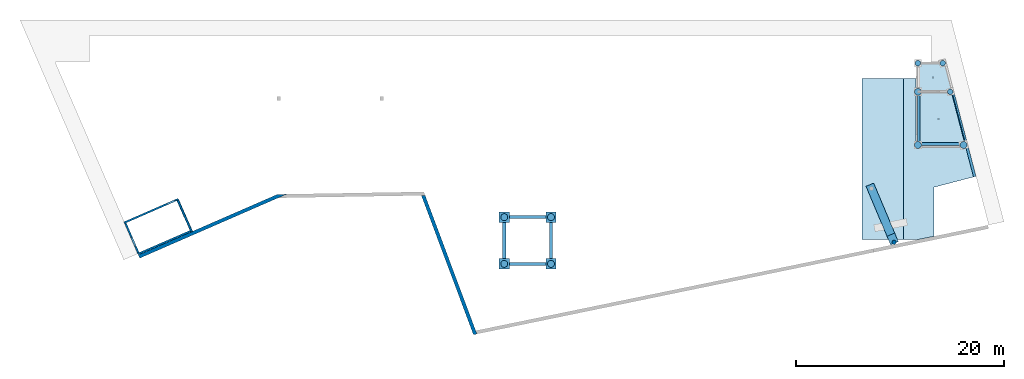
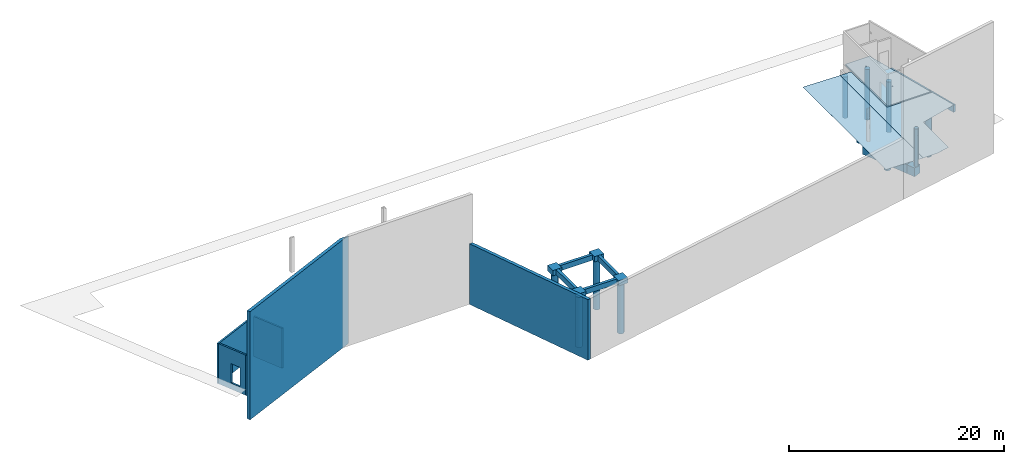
# One storey, part 1 of 5: 17 slabs, 10 beams, 6 walls, 1 column, 5 openings.
"""IFC2X3 building model written with IfcOpenShell, lengths in centimetres."""

from ifc_helpers import new_model, entity, si_unit, converted_unit, derived_unit, direction, frame, frame_2d, origin, origin_2d_with_axis, place, context, subcontext, project, spatial, polyline, rectangle, circle, outline, extrude, boolean, clip, halfspace, bounded_halfspace, faceted_brep, source, transform, mapped, material, material_list, layer, layer_set, layer_usage, type_object, type_shapes, element, save


model = new_model("IFC2X3")

# Units and contexts
model_context = context("Model", 3, precision=0.001, world=origin(), true_north=direction((6.12303176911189e-17, 1.0)))
body_context = subcontext(model_context, "Body", "Model", "MODEL_VIEW")
ifc_project = project(units=[si_unit("LENGTHUNIT", "METRE", prefix="CENTI"), si_unit("AREAUNIT", "SQUARE_METRE"), si_unit("VOLUMEUNIT", "CUBIC_METRE"), converted_unit("PLANEANGLEUNIT", "DEGREE", entity("IfcRatioMeasure", 0.0174532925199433), si_unit("PLANEANGLEUNIT", "RADIAN"), dimensions=[0, 0, 0, 0, 0, 0, 0]), si_unit("MASSUNIT", "GRAM", prefix="KILO"), derived_unit("MASSDENSITYUNIT", [(si_unit("MASSUNIT", "GRAM", prefix="KILO"), 1), (si_unit("LENGTHUNIT", "METRE"), -3)]), si_unit("TIMEUNIT", "SECOND"), si_unit("FREQUENCYUNIT", "HERTZ"), si_unit("THERMODYNAMICTEMPERATUREUNIT", "DEGREE_CELSIUS"), derived_unit("THERMALTRANSMITTANCEUNIT", [(si_unit("MASSUNIT", "GRAM", prefix="KILO"), 1), (si_unit("THERMODYNAMICTEMPERATUREUNIT", "KELVIN"), -1), (si_unit("TIMEUNIT", "SECOND"), -3)]), derived_unit("VOLUMETRICFLOWRATEUNIT", [(si_unit("LENGTHUNIT", "METRE"), 3), (si_unit("TIMEUNIT", "SECOND"), -1)]), si_unit("ELECTRICCURRENTUNIT", "AMPERE"), si_unit("ELECTRICVOLTAGEUNIT", "VOLT"), si_unit("POWERUNIT", "WATT"), si_unit("FORCEUNIT", "NEWTON"), si_unit("ILLUMINANCEUNIT", "LUX"), si_unit("LUMINOUSFLUXUNIT", "LUMEN"), si_unit("LUMINOUSINTENSITYUNIT", "CANDELA"), derived_unit("USERDEFINED", [(si_unit("MASSUNIT", "GRAM", prefix="KILO"), -1), (si_unit("LENGTHUNIT", "METRE"), -2), (si_unit("TIMEUNIT", "SECOND"), 3), (si_unit("LUMINOUSFLUXUNIT", "LUMEN"), 1)]), derived_unit("LINEARVELOCITYUNIT", [(si_unit("LENGTHUNIT", "METRE"), 1), (si_unit("TIMEUNIT", "SECOND"), -1)]), si_unit("PRESSUREUNIT", "PASCAL"), derived_unit("USERDEFINED", [(si_unit("LENGTHUNIT", "METRE"), -2), (si_unit("MASSUNIT", "GRAM", prefix="KILO"), 1), (si_unit("TIMEUNIT", "SECOND"), -2)])], contexts=[model_context])

# Site, building, storey
site_placement = place(None, origin())
site = spatial("IfcSite", under=ifc_project, at=site_placement, Name="Default", CompositionType="ELEMENT")
building_placement = place(site_placement, origin())
building = spatial("IfcBuilding", under=site, at=building_placement, Name="CAGE 03", CompositionType="ELEMENT")
storey_placement = place(building_placement, frame((0.0, 0.0, -50.0)))
storey = spatial("IfcBuildingStorey", under=building, at=storey_placement, Name="+3.50", CompositionType="ELEMENT", Elevation=-50.0000000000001)

# Column
ifc_material_1 = material(Name="Béton, C25/30")
column_type = type_object("IfcColumnType", Name="Ø40", PredefinedType="COLUMN", material=ifc_material_1)
shared_shape = source(origin(), body_context, "Body", "SweptSolid", [
    extrude(circle(Radius=19.9999999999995, at=frame_2d((1.09447412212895e-13, 4.19091230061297e-13), x_axis=(1.0, 0.0))), frame((10818.8242330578, 3304.50599773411, 260.0), z_axis=(0.0, 0.0, 1.0), x_axis=(-0.967549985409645, -0.252679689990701, 0.0)), (0.0, 0.0, 1.0), 80.0),
    extrude(circle(Radius=19.9999999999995, at=frame_2d((2.18894824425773e-13, 8.38182460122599e-13), x_axis=(1.0, 0.0))), frame((10818.8242330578, 3304.50599773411, -92.0), z_axis=(0.0, 0.0, 1.0), x_axis=(0.96754998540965, 0.252679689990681, 0.0)), (0.0, 0.0, 1.0), 352.0),
])
type_shapes(column_type, [shared_shape])
column_placement = place(storey_placement, frame((0.0, 0.0, 50.0)))
element("IfcColumn", 1, at=column_placement, inside=storey, type_object=column_type, material=ifc_material_1, Name="BBGO-Poteau circ:Ø40", ObjectType="Ø40", context=body_context, shape_type="MappedRepresentation", body=[
    mapped(shared_shape, transform((0.0, 0.0, 0.0), scale=1.0)),
])

# Beams
ifc_material_2 = material(Name="<Unnamed>")
ifc_material_list = material_list([ifc_material_1, ifc_material_2])
beam_type_1 = type_object("IfcBeamType", Name="40x80ht", PredefinedType="BEAM", material=ifc_material_list)
beam_1_placement = place(storey_placement, frame((11028.3658201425, 4215.66066607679, 0.0), z_axis=(0.0, 0.0, 1.0), x_axis=(0.0, 1.0, 0.0)))
element("IfcBeam", 2, at=beam_1_placement, inside=storey, type_object=beam_type_1, material=ifc_material_1, Name="BBGO-Poutre rect:40x80ht", ObjectType="BBGO-Poutre rect:40x80ht", context=body_context, shape_type="CSG", body=[
    boolean("DIFFERENCE", boolean("DIFFERENCE", extrude(outline(polyline([(-20.6666666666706, -46.6666666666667), (19.3333333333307, -46.6666666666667), (19.3333333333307, 33.3333333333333), (1.3333333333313, 33.3333333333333), (1.33333333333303, 13.3333333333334), (-20.6666666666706, 13.3333333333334), (-20.6666666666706, -46.6666666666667)])), frame((0.0, -19.3333333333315, -38.3333333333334), z_axis=(1.0, 0.0, 0.0), x_axis=(0.0, 1.0, 0.0)), (0.0, 0.0, 1.0), 536.999999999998), extrude(circle(Radius=7.0, at=frame_2d((0.0, 1.35358391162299e-14), x_axis=(1.0, 0.0))), frame((273.605961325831, -40.0, -54.2980787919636), z_axis=(0.0, 1.0, 0.0), x_axis=(-1.0, 0.0, 0.0)), (0.0, 0.0, 1.0), 40.0000000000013)), halfspace(frame((50.0, -40.0, 0.0), z_axis=(-0.62469504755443, -0.780868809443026, 0.0), x_axis=(0.780868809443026, -0.62469504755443, 0.0)), False)),
])
beam_type_2 = type_object("IfcBeamType", Name="BBGO-Poutre rect:50x80ht", PredefinedType="BEAM")
beam_2_placement = place(storey_placement, frame((11028.3658201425, 4215.66066607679, -85.0)))
element("IfcBeam", 3, at=beam_2_placement, inside=storey, type_object=beam_type_2, material=ifc_material_1, Name="BBGO-Poutre rect:50x80ht", ObjectType="BBGO-Poutre rect:50x80ht", context=body_context, shape_type="Brep", body=[
    faceted_brep([(488.375555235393, 0.0, 80.0), (488.375555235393, 0.0, 0.0), (488.375555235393, 25.7546174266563, 0.0), (488.375555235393, 50.0, 0.0), (488.375555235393, 50.0, 80.0), (488.375555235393, 25.7546174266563, 80.0), (481.14078689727, 0.0, 80.0), (18.0, 0.0, 80.0), (0.0, 0.0, 80.0), (0.0, 0.0, 0.0), (481.14078689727, 0.0, 0.0), (40.0, 50.0, 0.0), (468.083079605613, 50.0, 0.0), (40.0, 50.0, 60.0), (468.083079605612, 50.0, 60.0), (475.31784794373, 50.0, 60.0), (475.31784794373, 50.0, 80.0), (483.674780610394, 18.0, 80.0), (18.0, 18.0, 80.0), (18.0, 22.4999999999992, 80.0), (18.0, 18.0, 60.0), (483.674780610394, 18.0, 60.0), (18.0, 22.4999999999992, 60.0)], [[[0, 1, 2, 3, 4, 5]], [[1, 0, 6, 7, 8, 9, 10]], [[3, 2, 1, 10, 9, 11, 12]], [[4, 3, 12, 11, 13, 14, 15, 16]], [[0, 5, 4, 16, 17, 18, 19, 8, 7, 6]], [[20, 21, 15, 14, 13, 22]], [[21, 17, 16, 15]], [[21, 20, 18, 17]], [[11, 9, 8, 19, 22, 13]], [[18, 20, 22, 19]]]),
])
beam_type_3 = type_object("IfcBeamType", Name="BBGO-Poutre rect:80x100ht", PredefinedType="BEAM")
beam_3_placement = place(storey_placement, frame((10823.2390938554, 3294.00667585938, 0.0), z_axis=(0.0, 0.0, 1.0), x_axis=(-0.387616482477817, 0.921820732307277, 0.0)))
element("IfcBeam", 4, at=beam_3_placement, inside=storey, type_object=beam_type_3, material=ifc_material_1, Name="BBGO-Poutre rect:80x100ht", ObjectType="BBGO-Poutre rect:80x100ht", context=body_context, shape_type="SweptSolid", body=[
    extrude(rectangle(XDim=100.0, YDim=80.0, at=frame_2d((-1.4210854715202e-14, 8.84625706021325e-13), x_axis=(1.0, 0.0))), frame((0.0, 0.0, -92.0), z_axis=(1.0, 0.0, 0.0), x_axis=(0.0, 0.0, -1.0)), (0.0, 0.0, 1.0), 91.0042546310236),
])
beam_4_placement = place(storey_placement, frame((10787.9643447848, 3377.89628450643, 0.0), z_axis=(0.0, 0.0, 1.0), x_axis=(-0.387616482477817, 0.921820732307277, 0.0)))
element("IfcBeam", 5, at=beam_4_placement, inside=storey, type_object=beam_type_3, material=ifc_material_1, Name="BBGO-Poutre rect:80x100ht", ObjectType="BBGO-Poutre rect:80x100ht", context=body_context, shape_type="SweptSolid", body=[
    extrude(rectangle(XDim=100.0, YDim=80.0, at=frame_2d((-1.4210854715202e-14, -8.84625706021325e-13), x_axis=(1.0, 0.0))), frame((0.0, 0.0, -92.0), z_axis=(1.0, 0.0, 0.0), x_axis=(0.0, 0.0, -1.0)), (0.0, 0.0, 1.0), 521.399870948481),
])
beam_type_4 = type_object("IfcBeamType", Name="BBGO-Poutre rect:25x80ht", PredefinedType="BEAM")
beam_5_placement = place(storey_placement, frame((11527.8607803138, 4244.31916220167, 0.0), z_axis=(0.0, 0.0, 1.0), x_axis=(0.25267968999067, -0.967549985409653, 0.0)))
element("IfcBeam", 6, at=beam_5_placement, inside=storey, type_object=beam_type_4, material=ifc_material_1, Name="BBGO-Poutre rect:25x80ht", ObjectType="BBGO-Poutre rect:25x80ht", context=body_context, shape_type="Clipping", body=[
    clip(clip(extrude(rectangle(XDim=80.0, YDim=24.9999999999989, at=frame_2d((3.5527136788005e-15, 8.38440428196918e-13), x_axis=(1.0, 0.0))), frame((0.0, -12.4999999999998, -45.0), z_axis=(1.0, 0.0, 0.0), x_axis=(0.0, 0.0, -1.0)), (0.0, 0.0, 1.0), 314.81419035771), bounded_halfspace(frame((24.9188797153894, -18.0, -45.0), z_axis=(-0.967549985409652, 0.252679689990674, 0.0), x_axis=(0.0, 0.0, -1.0)), False, frame((0.0, -12.4999999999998, -45.0), z_axis=(1.0, 0.0, 0.0), x_axis=(0.0, 0.0, -1.0)), polyline([(-40.0, -5.50000000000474), (40.0, -5.50000000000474), (40.0, -12.4999999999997), (-40.0, -12.499999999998), (-40.0, -5.50000000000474)]))), bounded_halfspace(frame((24.9188797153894, -18.0, -5.0), z_axis=(-0.252679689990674, -0.967549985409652, 0.0), x_axis=(0.0, 0.0, -1.0)), False, frame((0.0, -12.4999999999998, -45.0), z_axis=(1.0, 0.0, 0.0), x_axis=(0.0, 0.0, -1.0)), polyline([(40.0, -5.50000000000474), (-40.0, -5.50000000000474), (-40.0, 1.00766874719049), (40.0, 1.00766874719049), (40.0, -5.50000000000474)]))),
])
beam_6_placement = place(storey_placement, frame((11370.2222621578, 4241.41528350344, -85.0), z_axis=(0.0, 0.0, 1.0), x_axis=(0.25267968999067, -0.967549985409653, 0.0)))
element("IfcBeam", 7, at=beam_6_placement, inside=storey, type_object=beam_type_4, material=ifc_material_1, Name="BBGO-Poutre rect:25x80ht", ObjectType="BBGO-Poutre rect:25x80ht", context=body_context, shape_type="Brep", body=[
    faceted_brep([(-491.115684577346, 128.256897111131, 60.0), (-491.115684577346, 128.256897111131, 0.0), (-479.393805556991, 128.256897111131, 0.0), (8.43628809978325, 128.256897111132, 0.0), (8.43628809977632, 128.256897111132, 60.0), (-479.39380555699, 128.256897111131, 60.0), (-491.115684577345, 153.25689711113, 0.0), (-462.508422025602, 153.25689711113, 0.0), (-9.64256573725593, 153.25689711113, 0.0), (37.0224041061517, 153.25689711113, 0.0), (37.0224041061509, 141.764565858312, 0.0), (13.5637845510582, 147.89088161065, 0.0), (-491.115684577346, 144.360645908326, 0.0), (-491.115684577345, 153.25689711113, 80.0), (37.0224041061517, 153.25689711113, 80.0), (-491.115684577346, 144.360645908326, 80.0), (-491.115684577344, 135.25689711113, 80.0), (10.2643671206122, 135.256897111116, 80.0), (13.5637845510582, 147.89088161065, 80.0), (37.0224041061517, 141.764565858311, 80.0), (-491.115684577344, 135.25689711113, 60.0), (10.2643671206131, 135.256897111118, 60.0)], [[[0, 1, 2, 3, 4, 5]], [[6, 7, 8, 9, 10, 11, 3, 2, 1, 12]], [[9, 8, 7, 6, 13, 14]], [[14, 13, 15, 16, 17, 18, 19]], [[20, 0, 5, 4, 21]], [[16, 20, 21, 17]], [[9, 14, 19, 10]], [[18, 11, 10, 19]], [[11, 18, 17, 21, 4, 3]], [[13, 6, 12, 1, 0, 20, 16, 15]]]),
])
beam_type_5 = type_object("IfcBeamType", Name="BBGO-Poutre rect:30x60ht", PredefinedType="BEAM")
for number, where, name in (
    (8, (7117.36594127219, 3096.66058661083, 0.0), "BBGO-Poutre rect:30x60ht"),
    (9, (7117.36594127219, 3546.66058661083, 0.0), "BBGO-Poutre rect:30x60ht"),
):
    element("IfcBeam", number, at=place(storey_placement, frame(where)), inside=storey, type_object=beam_type_5, material=ifc_material_1, Name=name, ObjectType="BBGO-Poutre rect:30x60ht", context=body_context, shape_type="SweptSolid", body=[
        extrude(rectangle(XDim=60.0, YDim=30.0000000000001, at=frame_2d((7.105427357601e-15, 1.29940502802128e-12), x_axis=(1.0, 0.0))), frame((0.0, 0.0, -51.0), z_axis=(1.0, 0.0, 0.0), x_axis=(0.0, 0.0, -1.0)), (0.0, 0.0, 1.0), 350.0),
    ])
for number, where, z_axis, x_axis, name in (
    (10, (7067.36594127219, 3146.66058661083, 0.0), (0.0, 0.0, 1.0), (0.0, 1.0, 0.0), "BBGO-Poutre rect:30x60ht"),
    (11, (7517.36594127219, 3146.66058661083, 0.0), (0.0, 0.0, 1.0), (0.0, 1.0, 0.0), "BBGO-Poutre rect:30x60ht"),
):
    element("IfcBeam", number, at=place(storey_placement, frame(where, z_axis=z_axis, x_axis=x_axis)), inside=storey, type_object=beam_type_5, material=ifc_material_1, Name=name, ObjectType="BBGO-Poutre rect:30x60ht", context=body_context, shape_type="SweptSolid", body=[
        extrude(rectangle(XDim=60.0, YDim=30.0000000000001, at=frame_2d((5.32907051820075e-15, 0.0), x_axis=(1.0, 0.0))), frame((0.0, 0.0, -51.0), z_axis=(1.0, 0.0, 0.0), x_axis=(0.0, 0.0, -1.0)), (0.0, 0.0, 1.0), 350.0),
    ])

# Slab, openings
ifc_layer_1 = layer(ifc_material_1, 20.0)
ifc_layer_set_1 = layer_set([ifc_layer_1], Name="Sol:Dalle Béton - 20 cm")
ifc_layer_usage_1 = layer_usage(ifc_layer_set_1, "AXIS3", "POSITIVE", 0.0)
slab_1_placement = place(storey_placement, frame((11046.3658201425, 4233.66066607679, -25.0)))
slab_1 = element("IfcSlab", 12, at=slab_1_placement, inside=storey, material=ifc_layer_usage_1, Name="Sol:Dalle Béton - 20 cm", ObjectType="Sol:Dalle Béton - 20 cm", PredefinedType="FLOOR", context=body_context, shape_type="SweptSolid", body=[
    extrude(outline(polyline([(-123.720419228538, 417.825919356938), (-328.857000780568, -367.674080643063), (136.817779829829, -367.674080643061), (136.817779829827, 417.825919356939), (-123.720419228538, 417.825919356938)])), frame((136.817779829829, 367.674080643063, 20.0), z_axis=(0.0, 0.0, -1.0), x_axis=(-1.0, 0.0, 0.0)), (0.0, 0.0, 1.0), 20.0),
])
opening_1_placement = place(slab_1_placement, origin())
element("IfcOpeningElement", 13, at=opening_1_placement, cuts=slab_1, ObjectType="Opening", context=body_context, shape_type="SweptSolid", body=[
    extrude(circle(Radius=5.5, at=origin_2d_with_axis()), frame((147.131947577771, 656.500000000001, 0.0)), (0.0, 0.0, 1.0), 20.0),
])
opening_2_placement = place(slab_1_placement, origin())
element("IfcOpeningElement", 14, at=opening_2_placement, cuts=slab_1, ObjectType="Opening", context=body_context, shape_type="SweptSolid", body=[
    extrude(circle(Radius=5.5, at=origin_2d_with_axis()), frame((199.513624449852, 255.625033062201, 0.0)), (0.0, 0.0, 1.0), 20.0),
])

# Slabs
ifc_material_3 = material(Name="B25")
slab_2_placement = place(storey_placement, origin())
element("IfcSlab", 15, at=slab_2_placement, inside=storey, material=ifc_material_3, Name="Pieux:Ø36/53", ObjectType="Pieux:Ø36/53", PredefinedType="BASESLAB", context=body_context, shape_type="SweptSolid", body=[
    extrude(circle(Radius=26.5, at=origin_2d_with_axis()), frame((11048.3658201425, 5028.16066607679, -610.0)), (0.0, 0.0, 1.0), 470.0),
])
slab_3_placement = place(storey_placement, origin())
element("IfcSlab", 16, at=slab_3_placement, inside=storey, material=ifc_material_3, Name="Pieux:Ø36/53", ObjectType="Pieux:Ø36/53", PredefinedType="BASESLAB", context=body_context, shape_type="SweptSolid", body=[
    extrude(circle(Radius=26.5, at=origin_2d_with_axis()), frame((11286.98348021, 5028.16066607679, -715.0)), (0.0, 0.0, 1.0), 575.0),
])
slab_4_placement = place(storey_placement, origin())
element("IfcSlab", 17, at=slab_4_placement, inside=storey, material=ifc_material_3, Name="Pieux:Ø46/67", ObjectType="Pieux:Ø46/67", PredefinedType="BASESLAB", context=body_context, shape_type="SweptSolid", body=[
    extrude(circle(Radius=33.5, at=origin_2d_with_axis()), frame((11048.3658201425, 4240.66066607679, -725.0)), (0.0, 0.0, 1.0), 575.0),
])
slab_5_placement = place(storey_placement, origin())
element("IfcSlab", 18, at=slab_5_placement, inside=storey, material=ifc_material_3, Name="Pieux:Ø46/67", ObjectType="Pieux:Ø46/67", PredefinedType="BASESLAB", context=body_context, shape_type="SweptSolid", body=[
    extrude(circle(Radius=33.5, at=origin_2d_with_axis()), frame((11487.4746783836, 4240.66066607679, -725.0)), (0.0, 0.0, 1.0), 575.0),
])
slab_6_placement = place(storey_placement, origin())
element("IfcSlab", 19, at=slab_6_placement, inside=storey, material=ifc_material_3, Name="Pieux:Ø36/53", ObjectType="Pieux:Ø36/53", PredefinedType="BASESLAB", context=body_context, shape_type="SweptSolid", body=[
    extrude(circle(Radius=26.5, at=origin_2d_with_axis()), frame((11358.9314473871, 4752.66066607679, -715.0)), (0.0, 0.0, 1.0), 575.0),
])
slab_7_placement = place(storey_placement, origin())
element("IfcSlab", 20, at=slab_7_placement, inside=storey, material=ifc_material_3, Name="Pieux:Ø46/67", ObjectType="Pieux:Ø46/67", PredefinedType="BASESLAB", context=body_context, shape_type="SweptSolid", body=[
    extrude(circle(Radius=33.5, at=origin_2d_with_axis()), frame((11048.3658201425, 4752.66066607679, -725.0)), (0.0, 0.0, 1.0), 575.0),
])
ifc_material_4 = material(Name="Site - Asphalte")
ifc_layer_2 = layer(ifc_material_4, 0.1)
ifc_layer_set_2 = layer_set([ifc_layer_2], Name="Sol:Enrobé")
ifc_layer_usage_2 = layer_usage(ifc_layer_set_2, "AXIS3", "POSITIVE", 0.0)
slab_8_placement = place(storey_placement, origin())
element("IfcSlab", 21, at=slab_8_placement, inside=storey, material=ifc_layer_usage_2, Name="Sol:Enrobé", ObjectType="Sol:Enrobé", PredefinedType="FLOOR", context=body_context, shape_type="SweptSolid", body=[
    extrude(outline(polyline([(-667.086808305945, -251.343546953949), (882.913151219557, -251.343546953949), (882.913151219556, -131.343546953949), (216.913151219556, -131.343546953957), (216.913151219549, 357.032008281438), (-63.5750523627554, 430.282665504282), (-165.066398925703, 41.6564530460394), (-636.837536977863, 41.6564530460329), (-667.086808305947, -105.253392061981), (-667.086808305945, -251.343546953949)])), frame((11159.7093670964, 3998.74751485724, -2.0), z_axis=(0.0, 0.0, -1.0), x_axis=(0.0, 1.0, 0.0)), (0.0, 0.0, 1.0), 0.0999999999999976),
])

# Slab, opening
ifc_layer_usage_3 = layer_usage(ifc_layer_set_2, "AXIS3", "POSITIVE", 0.0)
slab_9_placement = place(storey_placement, frame((10508.3658201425, 3331.66070655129, -2.1000199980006)))
slab_9 = element("IfcSlab", 22, at=slab_9_placement, inside=storey, material=ifc_layer_usage_3, Name="Sol:Enrobé", ObjectType="Sol:Enrobé", PredefinedType="FLOOR", context=body_context, shape_type="SweptSolid", body=[
    extrude(rectangle(XDim=1549.9999595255, YDim=400.079992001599, at=frame_2d((-200.039996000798, 0.0), x_axis=(0.0, 1.0))), frame((400.0, 774.999979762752, 0.100019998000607), z_axis=(0.0199960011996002, 0.0, 0.999800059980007), x_axis=(0.999800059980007, 0.0, -0.0199960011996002)), (0.0199960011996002, 0.0, -0.999800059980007), 0.1000199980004),
])
opening_3_placement = place(slab_9_placement, frame((93.0, 489.999959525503, 0.100019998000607)))
element("IfcOpeningElement", 23, at=opening_3_placement, cuts=slab_9, Name="Sol:Enrobé:2", ObjectType="Opening", context=body_context, shape_type="SweptSolid", body=[
    extrude(circle(Radius=20.0, at=origin_2d_with_axis()), frame((0.0, 0.0, 0.0), z_axis=(0.0, 0.0, -1.0), x_axis=(1.0, 0.0, 0.0)), (0.0, 0.0, 1.0), 0.1),
])

# Slabs
slab_10_placement = place(storey_placement, origin())
element("IfcSlab", 24, at=slab_10_placement, inside=storey, material=ifc_material_3, Name="Pieux:Ø46/67", ObjectType="Pieux:Ø46/67", PredefinedType="BASESLAB", context=body_context, shape_type="SweptSolid", body=[
    extrude(circle(Radius=33.5, at=origin_2d_with_axis()), frame((7067.36594127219, 3546.66058661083, -651.0)), (0.0, 0.0, 1.0), 575.0),
])
slab_11_placement = place(storey_placement, origin())
element("IfcSlab", 25, at=slab_11_placement, inside=storey, material=ifc_material_3, Name="Pieux:Ø46/67", ObjectType="Pieux:Ø46/67", PredefinedType="BASESLAB", context=body_context, shape_type="SweptSolid", body=[
    extrude(circle(Radius=33.5, at=origin_2d_with_axis()), frame((7067.36594127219, 3096.66058661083, -651.0)), (0.0, 0.0, 1.0), 575.0),
])
slab_12_placement = place(storey_placement, origin())
element("IfcSlab", 26, at=slab_12_placement, inside=storey, material=ifc_material_3, Name="Pieux:Ø46/67", ObjectType="Pieux:Ø46/67", PredefinedType="BASESLAB", context=body_context, shape_type="SweptSolid", body=[
    extrude(circle(Radius=33.5, at=origin_2d_with_axis()), frame((7517.36594127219, 3546.66058661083, -651.0)), (0.0, 0.0, 1.0), 575.0),
])
slab_13_placement = place(storey_placement, origin())
element("IfcSlab", 27, at=slab_13_placement, inside=storey, material=ifc_material_3, Name="Pieux:Ø46/67", ObjectType="Pieux:Ø46/67", PredefinedType="BASESLAB", context=body_context, shape_type="SweptSolid", body=[
    extrude(circle(Radius=33.5, at=origin_2d_with_axis()), frame((7517.36594127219, 3096.66058661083, -651.0)), (0.0, 0.0, 1.0), 575.0),
])
slab_14_placement = place(storey_placement, origin())
element("IfcSlab", 28, at=slab_14_placement, inside=storey, material=ifc_material_1, Name="M_Base-Rectangulaire:100x100x60ht", ObjectType="M_Base-Rectangulaire:100x100x60ht", PredefinedType="BASESLAB", context=body_context, shape_type="SweptSolid", body=[
    extrude(rectangle(XDim=99.9999999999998, YDim=99.9999999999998, at=frame_2d((-12.4999999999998, 12.4999999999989), x_axis=(1.0, 0.0))), frame((7504.86594127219, 3534.16058661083, -81.0), z_axis=(0.0, 0.0, 1.0), x_axis=(0.0, -1.0, 0.0)), (0.0, 0.0, 1.0), 60.0),
])
slab_15_placement = place(storey_placement, origin())
element("IfcSlab", 29, at=slab_15_placement, inside=storey, material=ifc_material_1, Name="M_Base-Rectangulaire:100x100x60ht", ObjectType="M_Base-Rectangulaire:100x100x60ht", PredefinedType="BASESLAB", context=body_context, shape_type="SweptSolid", body=[
    extrude(rectangle(XDim=99.9999999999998, YDim=99.9999999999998, at=frame_2d((-12.5000000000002, -12.4999999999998), x_axis=(1.0, 0.0))), frame((7079.86594127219, 3534.16058661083, -81.0), z_axis=(0.0, 0.0, 1.0), x_axis=(0.0, -1.0, 0.0)), (0.0, 0.0, 1.0), 60.0),
])
slab_16_placement = place(storey_placement, origin())
element("IfcSlab", 30, at=slab_16_placement, inside=storey, material=ifc_material_1, Name="M_Base-Rectangulaire:100x100x60ht", ObjectType="M_Base-Rectangulaire:100x100x60ht", PredefinedType="BASESLAB", context=body_context, shape_type="SweptSolid", body=[
    extrude(rectangle(XDim=99.9999999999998, YDim=99.9999999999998, at=frame_2d((12.5000000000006, 12.4999999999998), x_axis=(1.0, 0.0))), frame((7504.86594127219, 3109.16058661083, -81.0), z_axis=(0.0, 0.0, 1.0), x_axis=(0.0, -1.0, 0.0)), (0.0, 0.0, 1.0), 60.0),
])
slab_17_placement = place(storey_placement, origin())
element("IfcSlab", 31, at=slab_17_placement, inside=storey, material=ifc_material_1, Name="M_Base-Rectangulaire:100x100x60ht", ObjectType="M_Base-Rectangulaire:100x100x60ht", PredefinedType="BASESLAB", context=body_context, shape_type="SweptSolid", body=[
    extrude(rectangle(XDim=99.9999999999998, YDim=99.9999999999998, at=frame_2d((12.5000000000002, -12.4999999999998), x_axis=(1.0, 0.0))), frame((7079.86594127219, 3109.16058661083, -81.0), z_axis=(0.0, 0.0, 1.0), x_axis=(0.0, -1.0, 0.0)), (0.0, 0.0, 1.0), 60.0),
])

# Walls
ifc_material_5 = material(Name="Existant")
ifc_layer_3 = layer(ifc_material_5, 34.0)
ifc_layer_set_3 = layer_set([ifc_layer_3], Name="Mur de base:Mur existant")
ifc_layer_usage_4 = layer_usage(ifc_layer_set_3, "AXIS2", "NEGATIVE", 17.0)
wall_type_1 = type_object("IfcWallType", Name="Mur de base:Mur existant", PredefinedType="STANDARD", material=ifc_layer_set_3)
wall_1_placement = place(storey_placement, frame((3553.64369902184, 3167.35105302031, -300.0), z_axis=(0.0, 0.0, 1.0), x_axis=(0.916753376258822, 0.39945368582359, 0.0)))
element("IfcWallStandardCase", 32, at=wall_1_placement, inside=storey, type_object=wall_type_1, material=ifc_layer_usage_4, Name="Mur de base:Mur existant", ObjectType="Mur de base:Mur existant", context=body_context, shape_type="SweptSolid", body=[
    extrude(outline(polyline([(1540.71115028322, -17.0), (1458.88528848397, 17.0), (0.0, 17.0), (0.0, -17.0), (1452.1026198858, -17.0), (1540.71115028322, -17.0)])), origin(), (0.0, 0.0, 1.0), 1230.0),
])
ifc_layer_usage_5 = layer_usage(ifc_layer_set_3, "AXIS2", "NEGATIVE", 17.0)
wall_2_placement = place(storey_placement, frame((6285.88672046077, 3761.35413039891, -300.0), z_axis=(0.0, 0.0, 1.0), x_axis=(0.350283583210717, -0.936643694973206, 0.0)))
element("IfcWallStandardCase", 33, at=wall_2_placement, inside=storey, type_object=wall_type_1, material=ifc_layer_usage_5, Name="Mur de base:Mur existant", ObjectType="Mur de base:Mur existant", context=body_context, shape_type="SweptSolid", body=[
    extrude(outline(polyline([(1431.04825624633, -17.0), (1436.35419009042, 17.0), (1401.94266681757, 17.0), (12.0562784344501, 17.0), (0.0, -17.0), (1431.04825624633, -17.0)])), origin(), (0.0, 0.0, 1.0), 690.0),
])

# Wall, opening
ifc_layer_4 = layer(ifc_material_5, 18.0)
ifc_layer_set_4 = layer_set([ifc_layer_4], Name="Mur de base:Mur transfo existant")
ifc_layer_usage_6 = layer_usage(ifc_layer_set_4, "AXIS2", "POSITIVE", -9.0)
wall_type_2 = type_object("IfcWallType", Name="Mur de base:Mur transfo existant", PredefinedType="STANDARD", material=ifc_layer_set_4)
wall_3_placement = place(storey_placement, frame((3931.15432521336, 3720.31467128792, -40.0), z_axis=(0.0, 0.0, 1.0), x_axis=(-0.916453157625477, -0.400141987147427, 0.0)))
wall_3 = element("IfcWallStandardCase", 34, at=wall_3_placement, inside=storey, type_object=wall_type_2, material=ifc_layer_usage_6, Name="Mur de base:Mur transfo existant", ObjectType="Mur de base:Mur transfo existant", context=body_context, shape_type="SweptSolid", body=[
    extrude(outline(polyline([(568.312111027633, -9.0), (568.346620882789, 9.0), (550.346587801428, 9.0), (18.0001340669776, 9.0), (0.0, 9.0), (0.0694725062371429, -9.0), (568.312111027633, -9.0)])), origin(), (0.0, 0.0, 1.0), 457.0),
])
opening_4_placement = place(storey_placement, frame((3931.15432521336, 3720.31467128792, -40.0), z_axis=(0.0, 0.0, 1.0), x_axis=(-0.916453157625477, -0.400141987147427, 0.0)))
element("IfcOpeningElement", 35, at=opening_4_placement, cuts=wall_3, Name="Mur de base:Mur transfo existant:1", ObjectType="Opening", context=body_context, shape_type="SweptSolid", body=[
    extrude(rectangle(XDim=80.0000000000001, YDim=17.9744714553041, at=frame_2d((-2.23820961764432e-13, 5.71098723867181e-13), x_axis=(1.0, 0.0))), frame((75.918617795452, 0.0127642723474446, 81.0)), (0.0, 0.0, 1.0), 48.0),
])

# Walls
ifc_layer_usage_7 = layer_usage(ifc_layer_set_4, "AXIS2", "NEGATIVE", 9.0)
wall_4_placement = place(storey_placement, frame((3926.49344105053, 3708.49706842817, -40.0), z_axis=(0.0, 0.0, 1.0), x_axis=(0.403676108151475, -0.914901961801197, 0.0)))
element("IfcWallStandardCase", 36, at=wall_4_placement, inside=storey, type_object=wall_type_2, material=ifc_layer_usage_7, Name="Mur de base:Mur transfo existant", ObjectType="Mur de base:Mur transfo existant", context=body_context, shape_type="SweptSolid", body=[
    extrude(outline(polyline([(329.948069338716, -9.0), (330.050058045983, 9.0), (0.069472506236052, 9.0), (0.0, -9.0), (311.947780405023, -9.0), (329.948069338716, -9.0)])), origin(), (0.0, 0.0, 1.0), 457.0),
])
ifc_layer_usage_8 = layer_usage(ifc_layer_set_4, "AXIS2", "NEGATIVE", 9.0)
wall_5_placement = place(storey_placement, frame((4047.86510334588, 3411.24841788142, -40.0), z_axis=(0.0, 0.0, 1.0), x_axis=(-0.917174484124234, -0.398485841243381, 0.0)))
element("IfcWallStandardCase", 37, at=wall_5_placement, inside=storey, type_object=wall_type_2, material=ifc_layer_usage_8, Name="Mur de base:Mur transfo existant", ObjectType="Mur de base:Mur transfo existant", context=body_context, shape_type="SweptSolid", body=[
    extrude(outline(polyline([(552.249509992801, -9.0), (552.251504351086, 9.0), (0.0, 9.0), (0.101988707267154, -9.0), (534.249509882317, -9.0), (552.249509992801, -9.0)])), origin(), (0.0, 0.0, 1.0), 457.0),
])

# Wall, opening
ifc_layer_usage_9 = layer_usage(ifc_layer_set_4, "AXIS2", "NEGATIVE", 9.0)
wall_6_placement = place(storey_placement, frame((3546.0245390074, 3203.02483563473, -40.0), z_axis=(0.0, 0.0, 1.0), x_axis=(-0.398384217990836, 0.917218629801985, 0.0)))
wall_6 = element("IfcWallStandardCase", 38, at=wall_6_placement, inside=storey, type_object=wall_type_2, material=ifc_layer_usage_9, Name="Mur de base:Mur transfo existant", ObjectType="Mur de base:Mur transfo existant", context=body_context, shape_type="SweptSolid", body=[
    extrude(outline(polyline([(-9.29810913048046, -155.482154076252), (8.70192395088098, -155.482154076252), (9.29807796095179, 155.465896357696), (-8.70189278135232, 155.498411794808), (-9.29810913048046, -155.482154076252)])), frame((155.483437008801, 0.0, 0.0), z_axis=(0.0, 0.0, 1.0), x_axis=(-0.00191721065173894, 0.99999816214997, 0.0)), (0.0, 0.0, 1.0), 457.0),
])
opening_5_placement = place(storey_placement, frame((3546.0245390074, 3203.02483563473, -40.0), z_axis=(0.0, 0.0, 1.0), x_axis=(-0.398384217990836, 0.917218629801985, 0.0)))
element("IfcOpeningElement", 39, at=opening_5_placement, cuts=wall_6, Name="Mur de base:Mur transfo existant:1", ObjectType="Opening", context=body_context, shape_type="SweptSolid", body=[
    extrude(rectangle(XDim=220.0, YDim=99.9999999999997, at=frame_2d((0.0, 7.105427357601e-15), x_axis=(0.0, 1.0))), frame((114.352063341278, -9.0, 180.0), z_axis=(0.0, 1.0, 0.0), x_axis=(1.0, 0.0, 0.0)), (0.0, 0.0, 1.0), 18.0000000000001),
])

save(model, "model.ifc")
